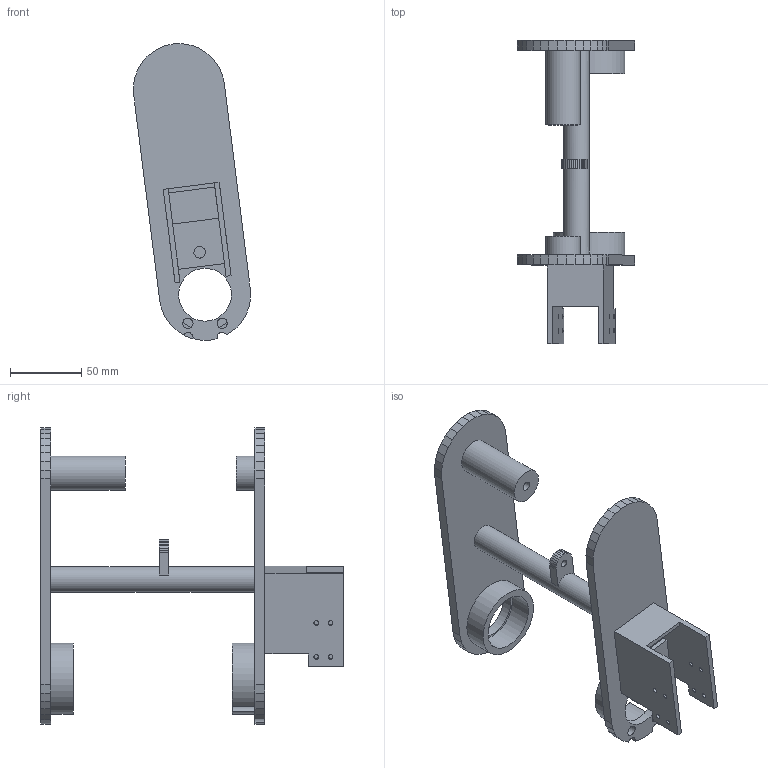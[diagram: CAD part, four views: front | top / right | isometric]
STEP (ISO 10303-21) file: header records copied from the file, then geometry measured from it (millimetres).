
FILE_DESCRIPTION(('Open CASCADE Model'),'2;1');
FILE_NAME('Open CASCADE Shape Model','2026-10-17T21:05:43',('Author'),( 'Open CASCADE'),'Open CASCADE STEP processor 7.9','Open CASCADE 7.9' ,'Unknown');
FILE_SCHEMA(('AUTOMOTIVE_DESIGN { 1 0 10303 214 1 1 1 1 }'));
Length unit declared in the file: millimetre
Products named in the file (1): Open CASCADE STEP translator 7.9 3
Bounding box: 82.09 x 212.24 x 207.88 mm (x, y, z)
Volume: 262147 mm3; surface area: 101375.3 mm2
Topology: 1 solids, 1 shells, 156 faces, 429 edges, 286 vertices
Faces by surface type: plane 122, cylinder 34
Full cylindrical faces by diameter (mm): 3 x3, 3.3 x8, 4.9 x1, 6.3 x2, 7.2 x2, 8.1 x2, 11 x2, 18 x1, 24 x2, 37 x2, 40 x1, 50 x1
Entity records: 11671 total; most frequent: CARTESIAN_POINT 3168, DIRECTION 1528, LINE 1055, VECTOR 1055, ORIENTED_EDGE 858, PCURVE 858, DEFINITIONAL_REPRESENTATION 858, EDGE_CURVE 429
